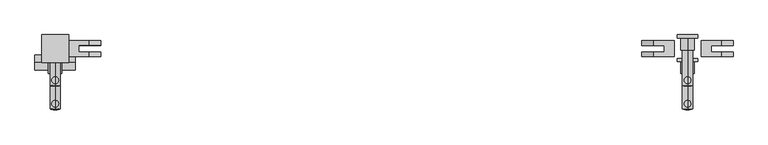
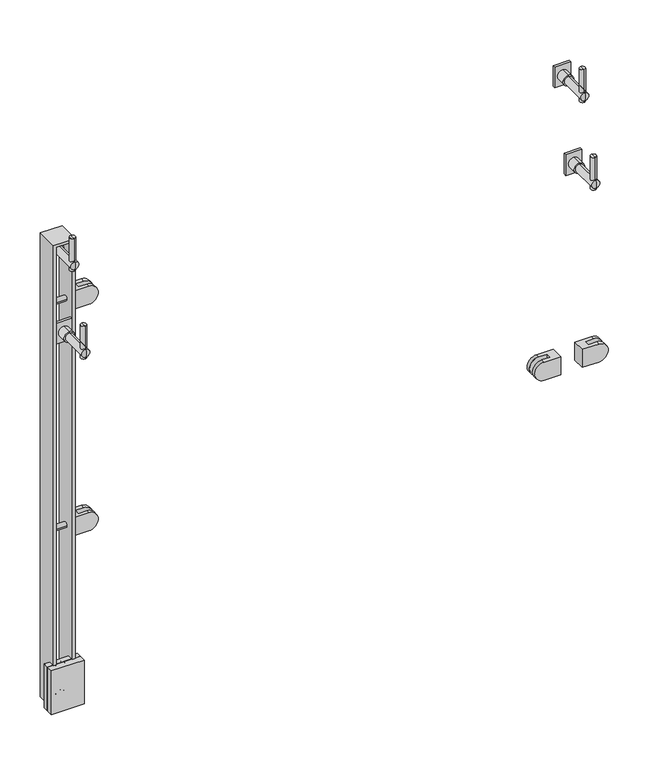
"""IFC4 building model written with IfcOpenShell, lengths in millimetres: proxy geometry, LIVERS_ICN - Glass Panel : LIVERS_ICN - Glass Panel."""

from ifc_helpers import new_model, si_unit, point, frame, origin, place, context, project, spatial, polyline, circle_curve, ellipse_curve, trimmed, outline, extrude, faceted_brep, source, transform, mapped, element, save
from ifc_brep_helpers import plane_surface, cylinder_surface, revolved_surface, advanced_brep


def building_element_proxy_994b1a2f(model_context):
    return source(origin(), model_context, "Body", "SolidModel", [
        advanced_brep(
        [(0.0, 60.3249609, 991.2180522), (0.0, 60.3249609, 978.5180522), (0.0, 60.3249609, 965.8180522), (0.0, 38.0999609, 991.2180522), (0.0, 38.0999609, 965.8180522), (0.0, 38.0999609, 978.5180522)],
        [
            (0, 1),
            (1, 2),
            (2, 0, circle_curve(frame((0.0, 60.3249609, 978.5180522), z_axis=(0.0, 1.0, 0.0), x_axis=(0.0, 0.0, -1.0)), 12.7)),
            (0, 2, circle_curve(frame((0.0, 60.3249609, 978.5180522), z_axis=(0.0, 1.0, 0.0), x_axis=(0.0, 0.0, -1.0)), 12.7)),
            (3, 0),
            (2, 4),
            (4, 3, circle_curve(frame((0.0, 38.0999609, 978.5180522), z_axis=(0.0, 1.0, 0.0), x_axis=(0.0, 0.0, -1.0)), 12.7)),
            (3, 4, circle_curve(frame((0.0, 38.0999609, 978.5180522), z_axis=(0.0, 1.0, 0.0), x_axis=(0.0, 0.0, -1.0)), 12.7)),
            (5, 3),
            (4, 5),
        ],
        [
            plane_surface(frame((0.0, 60.3249609, 978.5180522), z_axis=(0.0, 1.0, 0.0), x_axis=(0.0, 0.0, -1.0))),
            cylinder_surface(frame((0.0, 69.3828283, 978.5180522), z_axis=(0.0, -1.0, 0.0), x_axis=(0.0, 0.0, -1.0)), 12.7),
            plane_surface(frame((0.0, 38.0999609, 978.5180522), z_axis=(0.0, -1.0, 0.0), x_axis=(0.0, 0.0, -1.0))),
        ],
        [
            (0, [[1, 2, 3]]),
            (0, [[-2, -1, 4]]),
            (1, [[5, -3, 6, 7]]),
            (1, [[-6, -4, -5, 8]]),
            (2, [[9, -7, 10]]),
            (2, [[-10, -8, -9]]),
        ],
    ),
        advanced_brep(
        [(0.0, -25.4004131, 1043.1838845), (0.0, -19.0504161, 1043.1838845), (0.0, -12.7004191, 1043.1838845), (0.0, -25.4004131, 962.7878163), (0.0, -12.7004191, 962.7878163), (0.0, -19.0504161, 962.7878163)],
        [
            (0, 1),
            (1, 2),
            (2, 0, circle_curve(frame((0.0, -19.0504161, 1043.1838845), z_axis=(0.0, 0.0, 1.0), x_axis=(0.0, 1.0, 0.0)), 6.349997)),
            (0, 2, circle_curve(frame((0.0, -19.0504161, 1043.1838845), z_axis=(0.0, 0.0, 1.0), x_axis=(0.0, 1.0, 0.0)), 6.349997)),
            (3, 0),
            (2, 4),
            (4, 3, circle_curve(frame((0.0, -19.0504161, 962.7878163), z_axis=(0.0, 0.0, 1.0), x_axis=(0.0, 1.0, 0.0)), 6.349997)),
            (3, 4, circle_curve(frame((0.0, -19.0504161, 962.7878163), z_axis=(0.0, 0.0, 1.0), x_axis=(0.0, 1.0, 0.0)), 6.349997)),
            (5, 3),
            (4, 5),
        ],
        [
            plane_surface(frame((0.0, -19.0504161, 1043.1838845), z_axis=(0.0, 0.0, 1.0), x_axis=(0.0, 1.0, 0.0))),
            cylinder_surface(frame((0.0, -19.0504161, 1057.0348914), z_axis=(0.0, 0.0, -1.0), x_axis=(0.0, 1.0, 0.0)), 6.349997),
            plane_surface(frame((0.0, -19.0504161, 962.7878163), z_axis=(0.0, 0.0, -1.0), x_axis=(0.0, 1.0, 0.0))),
        ],
        [
            (0, [[1, 2, 3]]),
            (0, [[-2, -1, 4]]),
            (1, [[5, -3, 6, 7]]),
            (1, [[-6, -4, -5, 8]]),
            (2, [[9, -7, 10]]),
            (2, [[-10, -8, -9]]),
        ],
    ),
        advanced_brep(
        [(0.0, -30.1375464, 978.5180522), (0.0, -28.5500464, 988.0430522), (0.0, -28.5500464, 968.9930522), (0.0, 38.0999609, 988.0430522), (0.0, 38.0999609, 978.5180522), (0.0, 38.0999609, 968.9930522)],
        [
            (0, 1, circle_curve(frame((0.0, -0.7687964, 978.5180522), z_axis=(-1.0, 0.0, 0.0), x_axis=(0.0, 1.0, 0.0)), 29.36875)),
            (1, 2, circle_curve(frame((0.0, -28.5500464, 978.5180522), z_axis=(0.0, -1.0, 0.0), x_axis=(0.0, 0.0, -1.0)), 9.525)),
            (2, 0, circle_curve(frame((0.0, -0.7687964, 978.5180522), z_axis=(-1.0, 0.0, 0.0), x_axis=(0.0, 1.0, 0.0)), 29.36875)),
            (2, 1, circle_curve(frame((0.0, -28.5500464, 978.5180522), z_axis=(0.0, -1.0, 0.0), x_axis=(0.0, 0.0, -1.0)), 9.525)),
            (3, 4),
            (4, 5),
            (5, 3, circle_curve(frame((0.0, 38.0999609, 978.5180522), z_axis=(0.0, 1.0, 0.0), x_axis=(0.0, 0.0, -1.0)), 9.525)),
            (3, 5, circle_curve(frame((0.0, 38.0999609, 978.5180522), z_axis=(0.0, 1.0, 0.0), x_axis=(0.0, 0.0, -1.0)), 9.525)),
            (1, 3),
            (5, 2),
        ],
        [
            revolved_surface(trimmed(ellipse_curve(frame((0.0, -0.7687964, 978.5180522), z_axis=(-1.0, 0.0, 0.0), x_axis=(0.0, 1.0, 0.0)), 29.36875, 29.36875), [point((0.0, -28.5500464, 968.9930522))], [point((0.0, -30.1375464, 978.5180522))], True, "CARTESIAN"), (0.0, 30.3031204, 978.5180522), (0.0, -1.0, 0.0)),
            plane_surface(frame((0.0, 38.0999609, 978.5180522), z_axis=(0.0, 1.0, 0.0), x_axis=(0.0, 0.0, -1.0))),
            cylinder_surface(frame((0.0, 30.3031204, 978.5180522), z_axis=(0.0, -1.0, 0.0), x_axis=(0.0, 0.0, -1.0)), 9.525),
        ],
        [
            (0, [[1, 2, 3]]),
            (0, [[-3, 4, -1]]),
            (1, [[5, 6, 7]]),
            (1, [[-6, -5, 8]]),
            (2, [[9, -7, 10, -2]]),
            (2, [[-10, -8, -9, -4]]),
        ],
    ),
        extrude(outline(polyline([(19.05, 66.6749609), (19.05, 60.3249609), (-19.05, 60.3249609), (-19.05, 66.6749609), (19.05, 66.6749609)])), frame((0.0, 0.0, 953.1180522), z_axis=(0.0, 0.0, 1.0), x_axis=(1.0, 0.0, 0.0)), (0.0, 0.0, 1.0), 50.8),
        advanced_brep(
        [(1189.6787319, 60.3249609, 991.2180522), (1189.6787319, 60.3249609, 978.5180522), (1189.6787319, 60.3249609, 965.8180522), (1189.6787319, 38.0999609, 991.2180522), (1189.6787319, 38.0999609, 965.8180522), (1189.6787319, 38.0999609, 978.5180522)],
        [
            (0, 1),
            (1, 2),
            (2, 0, circle_curve(frame((1189.6787319, 60.3249609, 978.5180522), z_axis=(0.0, 1.0, 0.0), x_axis=(0.0, 0.0, -1.0)), 12.7)),
            (0, 2, circle_curve(frame((1189.6787319, 60.3249609, 978.5180522), z_axis=(0.0, 1.0, 0.0), x_axis=(0.0, 0.0, -1.0)), 12.7)),
            (3, 0),
            (2, 4),
            (4, 3, circle_curve(frame((1189.6787319, 38.0999609, 978.5180522), z_axis=(0.0, 1.0, 0.0), x_axis=(0.0, 0.0, -1.0)), 12.7)),
            (3, 4, circle_curve(frame((1189.6787319, 38.0999609, 978.5180522), z_axis=(0.0, 1.0, 0.0), x_axis=(0.0, 0.0, -1.0)), 12.7)),
            (5, 3),
            (4, 5),
        ],
        [
            plane_surface(frame((1189.6787319, 60.3249609, 978.5180522), z_axis=(0.0, 1.0, 0.0), x_axis=(0.0, 0.0, -1.0))),
            cylinder_surface(frame((1189.6787319, 69.3828283, 978.5180522), z_axis=(0.0, -1.0, 0.0), x_axis=(0.0, 0.0, -1.0)), 12.7),
            plane_surface(frame((1189.6787319, 38.0999609, 978.5180522), z_axis=(0.0, -1.0, 0.0), x_axis=(0.0, 0.0, -1.0))),
        ],
        [
            (0, [[1, 2, 3]]),
            (0, [[-2, -1, 4]]),
            (1, [[5, -3, 6, 7]]),
            (1, [[-6, -4, -5, 8]]),
            (2, [[9, -7, 10]]),
            (2, [[-10, -8, -9]]),
        ],
    ),
        advanced_brep(
        [(1189.6787319, -25.4004131, 1043.1838845), (1189.6787319, -19.0504161, 1043.1838845), (1189.6787319, -12.7004191, 1043.1838845), (1189.6787319, -25.4004131, 962.7878163), (1189.6787319, -12.7004191, 962.7878163), (1189.6787319, -19.0504161, 962.7878163)],
        [
            (0, 1),
            (1, 2),
            (2, 0, circle_curve(frame((1189.6787319, -19.0504161, 1043.1838845), z_axis=(0.0, 0.0, 1.0), x_axis=(0.0, 1.0, 0.0)), 6.349997)),
            (0, 2, circle_curve(frame((1189.6787319, -19.0504161, 1043.1838845), z_axis=(0.0, 0.0, 1.0), x_axis=(0.0, 1.0, 0.0)), 6.349997)),
            (3, 0),
            (2, 4),
            (4, 3, circle_curve(frame((1189.6787319, -19.0504161, 962.7878163), z_axis=(0.0, 0.0, 1.0), x_axis=(0.0, 1.0, 0.0)), 6.349997)),
            (3, 4, circle_curve(frame((1189.6787319, -19.0504161, 962.7878163), z_axis=(0.0, 0.0, 1.0), x_axis=(0.0, 1.0, 0.0)), 6.349997)),
            (5, 3),
            (4, 5),
        ],
        [
            plane_surface(frame((1189.6787319, -19.0504161, 1043.1838845), z_axis=(0.0, 0.0, 1.0), x_axis=(0.0, 1.0, 0.0))),
            cylinder_surface(frame((1189.6787319, -19.0504161, 1057.0348914), z_axis=(0.0, 0.0, -1.0), x_axis=(0.0, 1.0, 0.0)), 6.349997),
            plane_surface(frame((1189.6787319, -19.0504161, 962.7878163), z_axis=(0.0, 0.0, -1.0), x_axis=(0.0, 1.0, 0.0))),
        ],
        [
            (0, [[1, 2, 3]]),
            (0, [[-2, -1, 4]]),
            (1, [[5, -3, 6, 7]]),
            (1, [[-6, -4, -5, 8]]),
            (2, [[9, -7, 10]]),
            (2, [[-10, -8, -9]]),
        ],
    ),
        advanced_brep(
        [(1189.6787319, -30.1375464, 978.5180522), (1189.6787319, -28.5500464, 988.0430522), (1189.6787319, -28.5500464, 968.9930522), (1189.6787319, 38.0999609, 988.0430522), (1189.6787319, 38.0999609, 978.5180522), (1189.6787319, 38.0999609, 968.9930522)],
        [
            (0, 1, circle_curve(frame((1189.6787319, -0.7687964, 978.5180522), z_axis=(-1.0, 0.0, 0.0), x_axis=(0.0, 1.0, 0.0)), 29.36875)),
            (1, 2, circle_curve(frame((1189.6787319, -28.5500464, 978.5180522), z_axis=(0.0, -1.0, 0.0), x_axis=(0.0, 0.0, -1.0)), 9.525)),
            (2, 0, circle_curve(frame((1189.6787319, -0.7687964, 978.5180522), z_axis=(-1.0, 0.0, 0.0), x_axis=(0.0, 1.0, 0.0)), 29.36875)),
            (2, 1, circle_curve(frame((1189.6787319, -28.5500464, 978.5180522), z_axis=(0.0, -1.0, 0.0), x_axis=(0.0, 0.0, -1.0)), 9.525)),
            (3, 4),
            (4, 5),
            (5, 3, circle_curve(frame((1189.6787319, 38.0999609, 978.5180522), z_axis=(0.0, 1.0, 0.0), x_axis=(0.0, 0.0, -1.0)), 9.525)),
            (3, 5, circle_curve(frame((1189.6787319, 38.0999609, 978.5180522), z_axis=(0.0, 1.0, 0.0), x_axis=(0.0, 0.0, -1.0)), 9.525)),
            (1, 3),
            (5, 2),
        ],
        [
            revolved_surface(trimmed(ellipse_curve(frame((1189.6787319, -0.7687964, 978.5180522), z_axis=(-1.0, 0.0, 0.0), x_axis=(0.0, 1.0, 0.0)), 29.36875, 29.36875), [point((1189.6787319, -28.5500464, 968.9930522))], [point((1189.6787319, -30.1375464, 978.5180522))], True, "CARTESIAN"), (1189.6787319, 30.3031204, 978.5180522), (0.0, -1.0, 0.0)),
            plane_surface(frame((1189.6787319, 38.0999609, 978.5180522), z_axis=(0.0, 1.0, 0.0), x_axis=(0.0, 0.0, -1.0))),
            cylinder_surface(frame((1189.6787319, 30.3031204, 978.5180522), z_axis=(0.0, -1.0, 0.0), x_axis=(0.0, 0.0, -1.0)), 9.525),
        ],
        [
            (0, [[1, 2, 3]]),
            (0, [[-3, 4, -1]]),
            (1, [[5, 6, 7]]),
            (1, [[-6, -5, 8]]),
            (2, [[9, -7, 10, -2]]),
            (2, [[-10, -8, -9, -4]]),
        ],
    ),
        extrude(outline(polyline([(1208.7287319, 66.6749609), (1208.7287319, 60.3249609), (1170.6287319, 60.3249609), (1170.6287319, 66.6749609), (1208.7287319, 66.6749609)])), frame((0.0, 0.0, 953.1180522), z_axis=(0.0, 0.0, 1.0), x_axis=(1.0, 0.0, 0.0)), (0.0, 0.0, 1.0), 50.8),
        advanced_brep(
        [(0.0, 15.875, 802.0090959), (0.0, 15.875, 789.3090959), (0.0, 15.875, 776.6090959), (0.0, -6.35, 802.0090959), (0.0, -6.35, 776.6090959), (0.0, -6.35, 789.3090959)],
        [
            (0, 1),
            (1, 2),
            (2, 0, circle_curve(frame((0.0, 15.875, 789.3090959), z_axis=(0.0, 1.0, 0.0), x_axis=(0.0, 0.0, -1.0)), 12.7)),
            (0, 2, circle_curve(frame((0.0, 15.875, 789.3090959), z_axis=(0.0, 1.0, 0.0), x_axis=(0.0, 0.0, -1.0)), 12.7)),
            (3, 0),
            (2, 4),
            (4, 3, circle_curve(frame((0.0, -6.35, 789.3090959), z_axis=(0.0, 1.0, 0.0), x_axis=(0.0, 0.0, -1.0)), 12.7)),
            (3, 4, circle_curve(frame((0.0, -6.35, 789.3090959), z_axis=(0.0, 1.0, 0.0), x_axis=(0.0, 0.0, -1.0)), 12.7)),
            (5, 3),
            (4, 5),
        ],
        [
            plane_surface(frame((0.0, 15.875, 789.3090959), z_axis=(0.0, 1.0, 0.0), x_axis=(0.0, 0.0, -1.0))),
            cylinder_surface(frame((0.0, 24.9328674, 789.3090959), z_axis=(0.0, -1.0, 0.0), x_axis=(0.0, 0.0, -1.0)), 12.7),
            plane_surface(frame((0.0, -6.35, 789.3090959), z_axis=(0.0, -1.0, 0.0), x_axis=(0.0, 0.0, -1.0))),
        ],
        [
            (0, [[1, 2, 3]]),
            (0, [[-2, -1, 4]]),
            (1, [[5, -3, 6, 7]]),
            (1, [[-6, -4, -5, 8]]),
            (2, [[9, -7, 10]]),
            (2, [[-10, -8, -9]]),
        ],
    ),
        advanced_brep(
        [(0.0, -69.850374, 853.9749282), (0.0, -63.500377, 853.9749282), (0.0, -57.15038, 853.9749282), (0.0, -69.850374, 773.57886), (0.0, -57.15038, 773.57886), (0.0, -63.500377, 773.57886)],
        [
            (0, 1),
            (1, 2),
            (2, 0, circle_curve(frame((0.0, -63.500377, 853.9749282), z_axis=(0.0, 0.0, 1.0), x_axis=(0.0, 1.0, 0.0)), 6.349997)),
            (0, 2, circle_curve(frame((0.0, -63.500377, 853.9749282), z_axis=(0.0, 0.0, 1.0), x_axis=(0.0, 1.0, 0.0)), 6.349997)),
            (3, 0),
            (2, 4),
            (4, 3, circle_curve(frame((0.0, -63.500377, 773.57886), z_axis=(0.0, 0.0, 1.0), x_axis=(0.0, 1.0, 0.0)), 6.349997)),
            (3, 4, circle_curve(frame((0.0, -63.500377, 773.57886), z_axis=(0.0, 0.0, 1.0), x_axis=(0.0, 1.0, 0.0)), 6.349997)),
            (5, 3),
            (4, 5),
        ],
        [
            plane_surface(frame((0.0, -63.500377, 853.9749282), z_axis=(0.0, 0.0, 1.0), x_axis=(0.0, 1.0, 0.0))),
            cylinder_surface(frame((0.0, -63.500377, 867.8259351), z_axis=(0.0, 0.0, -1.0), x_axis=(0.0, 1.0, 0.0)), 6.349997),
            plane_surface(frame((0.0, -63.500377, 773.57886), z_axis=(0.0, 0.0, -1.0), x_axis=(0.0, 1.0, 0.0))),
        ],
        [
            (0, [[1, 2, 3]]),
            (0, [[-2, -1, 4]]),
            (1, [[5, -3, 6, 7]]),
            (1, [[-6, -4, -5, 8]]),
            (2, [[9, -7, 10]]),
            (2, [[-10, -8, -9]]),
        ],
    ),
        advanced_brep(
        [(0.0, -74.5875073, 789.3090959), (0.0, -73.0000073, 798.8340959), (0.0, -73.0000073, 779.7840959), (0.0, -6.35, 798.8340959), (0.0, -6.35, 789.3090959), (0.0, -6.35, 779.7840959)],
        [
            (0, 1, circle_curve(frame((0.0, -45.2187573, 789.3090959), z_axis=(-1.0, 0.0, 0.0), x_axis=(0.0, 1.0, 0.0)), 29.36875)),
            (1, 2, circle_curve(frame((0.0, -73.0000073, 789.3090959), z_axis=(0.0, -1.0, 0.0), x_axis=(0.0, 0.0, -1.0)), 9.525)),
            (2, 0, circle_curve(frame((0.0, -45.2187573, 789.3090959), z_axis=(-1.0, 0.0, 0.0), x_axis=(0.0, 1.0, 0.0)), 29.36875)),
            (2, 1, circle_curve(frame((0.0, -73.0000073, 789.3090959), z_axis=(0.0, -1.0, 0.0), x_axis=(0.0, 0.0, -1.0)), 9.525)),
            (3, 4),
            (4, 5),
            (5, 3, circle_curve(frame((0.0, -6.35, 789.3090959), z_axis=(0.0, 1.0, 0.0), x_axis=(0.0, 0.0, -1.0)), 9.525)),
            (3, 5, circle_curve(frame((0.0, -6.35, 789.3090959), z_axis=(0.0, 1.0, 0.0), x_axis=(0.0, 0.0, -1.0)), 9.525)),
            (1, 3),
            (5, 2),
        ],
        [
            revolved_surface(trimmed(ellipse_curve(frame((0.0, -45.2187573, 789.3090959), z_axis=(-1.0, 0.0, 0.0), x_axis=(0.0, 1.0, 0.0)), 29.36875, 29.36875), [point((0.0, -73.0000073, 779.7840959))], [point((0.0, -74.5875073, 789.3090959))], True, "CARTESIAN"), (0.0, -14.1468405, 789.3090959), (0.0, -1.0, 0.0)),
            plane_surface(frame((0.0, -6.35, 789.3090959), z_axis=(0.0, 1.0, 0.0), x_axis=(0.0, 0.0, -1.0))),
            cylinder_surface(frame((0.0, -14.1468405, 789.3090959), z_axis=(0.0, -1.0, 0.0), x_axis=(0.0, 0.0, -1.0)), 9.525),
        ],
        [
            (0, [[1, 2, 3]]),
            (0, [[-3, 4, -1]]),
            (1, [[5, 6, 7]]),
            (1, [[-6, -5, 8]]),
            (2, [[9, -7, 10, -2]]),
            (2, [[-10, -8, -9, -4]]),
        ],
    ),
        extrude(outline(polyline([(19.05, 22.225), (19.05, 15.875), (-19.05, 15.875), (-19.05, 22.225), (19.05, 22.225)])), frame((0.0, 0.0, 763.9090959), z_axis=(0.0, 0.0, 1.0), x_axis=(1.0, 0.0, 0.0)), (0.0, 0.0, 1.0), 50.8),
        advanced_brep(
        [(1189.6787319, 15.875, 802.0090959), (1189.6787319, 15.875, 789.3090959), (1189.6787319, 15.875, 776.6090959), (1189.6787319, -6.35, 802.0090959), (1189.6787319, -6.35, 776.6090959), (1189.6787319, -6.35, 789.3090959)],
        [
            (0, 1),
            (1, 2),
            (2, 0, circle_curve(frame((1189.6787319, 15.875, 789.3090959), z_axis=(0.0, 1.0, 0.0), x_axis=(0.0, 0.0, -1.0)), 12.7)),
            (0, 2, circle_curve(frame((1189.6787319, 15.875, 789.3090959), z_axis=(0.0, 1.0, 0.0), x_axis=(0.0, 0.0, -1.0)), 12.7)),
            (3, 0),
            (2, 4),
            (4, 3, circle_curve(frame((1189.6787319, -6.35, 789.3090959), z_axis=(0.0, 1.0, 0.0), x_axis=(0.0, 0.0, -1.0)), 12.7)),
            (3, 4, circle_curve(frame((1189.6787319, -6.35, 789.3090959), z_axis=(0.0, 1.0, 0.0), x_axis=(0.0, 0.0, -1.0)), 12.7)),
            (5, 3),
            (4, 5),
        ],
        [
            plane_surface(frame((1189.6787319, 15.875, 789.3090959), z_axis=(0.0, 1.0, 0.0), x_axis=(0.0, 0.0, -1.0))),
            cylinder_surface(frame((1189.6787319, 24.9328674, 789.3090959), z_axis=(0.0, -1.0, 0.0), x_axis=(0.0, 0.0, -1.0)), 12.7),
            plane_surface(frame((1189.6787319, -6.35, 789.3090959), z_axis=(0.0, -1.0, 0.0), x_axis=(0.0, 0.0, -1.0))),
        ],
        [
            (0, [[1, 2, 3]]),
            (0, [[-2, -1, 4]]),
            (1, [[5, -3, 6, 7]]),
            (1, [[-6, -4, -5, 8]]),
            (2, [[9, -7, 10]]),
            (2, [[-10, -8, -9]]),
        ],
    ),
        advanced_brep(
        [(1189.6787319, -69.850374, 853.9749282), (1189.6787319, -63.500377, 853.9749282), (1189.6787319, -57.15038, 853.9749282), (1189.6787319, -69.850374, 773.57886), (1189.6787319, -57.15038, 773.57886), (1189.6787319, -63.500377, 773.57886)],
        [
            (0, 1),
            (1, 2),
            (2, 0, circle_curve(frame((1189.6787319, -63.500377, 853.9749282), z_axis=(0.0, 0.0, 1.0), x_axis=(0.0, 1.0, 0.0)), 6.349997)),
            (0, 2, circle_curve(frame((1189.6787319, -63.500377, 853.9749282), z_axis=(0.0, 0.0, 1.0), x_axis=(0.0, 1.0, 0.0)), 6.349997)),
            (3, 0),
            (2, 4),
            (4, 3, circle_curve(frame((1189.6787319, -63.500377, 773.57886), z_axis=(0.0, 0.0, 1.0), x_axis=(0.0, 1.0, 0.0)), 6.349997)),
            (3, 4, circle_curve(frame((1189.6787319, -63.500377, 773.57886), z_axis=(0.0, 0.0, 1.0), x_axis=(0.0, 1.0, 0.0)), 6.349997)),
            (5, 3),
            (4, 5),
        ],
        [
            plane_surface(frame((1189.6787319, -63.500377, 853.9749282), z_axis=(0.0, 0.0, 1.0), x_axis=(0.0, 1.0, 0.0))),
            cylinder_surface(frame((1189.6787319, -63.500377, 867.8259351), z_axis=(0.0, 0.0, -1.0), x_axis=(0.0, 1.0, 0.0)), 6.349997),
            plane_surface(frame((1189.6787319, -63.500377, 773.57886), z_axis=(0.0, 0.0, -1.0), x_axis=(0.0, 1.0, 0.0))),
        ],
        [
            (0, [[1, 2, 3]]),
            (0, [[-2, -1, 4]]),
            (1, [[5, -3, 6, 7]]),
            (1, [[-6, -4, -5, 8]]),
            (2, [[9, -7, 10]]),
            (2, [[-10, -8, -9]]),
        ],
    ),
        advanced_brep(
        [(1189.6787319, -74.5875073, 789.3090959), (1189.6787319, -73.0000073, 798.8340959), (1189.6787319, -73.0000073, 779.7840959), (1189.6787319, -6.35, 798.8340959), (1189.6787319, -6.35, 789.3090959), (1189.6787319, -6.35, 779.7840959)],
        [
            (0, 1, circle_curve(frame((1189.6787319, -45.2187573, 789.3090959), z_axis=(-1.0, 0.0, 0.0), x_axis=(0.0, 1.0, 0.0)), 29.36875)),
            (1, 2, circle_curve(frame((1189.6787319, -73.0000073, 789.3090959), z_axis=(0.0, -1.0, 0.0), x_axis=(0.0, 0.0, -1.0)), 9.525)),
            (2, 0, circle_curve(frame((1189.6787319, -45.2187573, 789.3090959), z_axis=(-1.0, 0.0, 0.0), x_axis=(0.0, 1.0, 0.0)), 29.36875)),
            (2, 1, circle_curve(frame((1189.6787319, -73.0000073, 789.3090959), z_axis=(0.0, -1.0, 0.0), x_axis=(0.0, 0.0, -1.0)), 9.525)),
            (3, 4),
            (4, 5),
            (5, 3, circle_curve(frame((1189.6787319, -6.35, 789.3090959), z_axis=(0.0, 1.0, 0.0), x_axis=(0.0, 0.0, -1.0)), 9.525)),
            (3, 5, circle_curve(frame((1189.6787319, -6.35, 789.3090959), z_axis=(0.0, 1.0, 0.0), x_axis=(0.0, 0.0, -1.0)), 9.525)),
            (1, 3),
            (5, 2),
        ],
        [
            revolved_surface(trimmed(ellipse_curve(frame((1189.6787319, -45.2187573, 789.3090959), z_axis=(-1.0, 0.0, 0.0), x_axis=(0.0, 1.0, 0.0)), 29.36875, 29.36875), [point((1189.6787319, -73.0000073, 779.7840959))], [point((1189.6787319, -74.5875073, 789.3090959))], True, "CARTESIAN"), (1189.6787319, -14.1468405, 789.3090959), (0.0, -1.0, 0.0)),
            plane_surface(frame((1189.6787319, -6.35, 789.3090959), z_axis=(0.0, 1.0, 0.0), x_axis=(0.0, 0.0, -1.0))),
            cylinder_surface(frame((1189.6787319, -14.1468405, 789.3090959), z_axis=(0.0, -1.0, 0.0), x_axis=(0.0, 0.0, -1.0)), 9.525),
        ],
        [
            (0, [[1, 2, 3]]),
            (0, [[-3, 4, -1]]),
            (1, [[5, 6, 7]]),
            (1, [[-6, -5, 8]]),
            (2, [[9, -7, 10, -2]]),
            (2, [[-10, -8, -9, -4]]),
        ],
    ),
        extrude(outline(polyline([(1208.7287319, 22.225), (1208.7287319, 15.875), (1170.6287319, 15.875), (1170.6287319, 22.225), (1208.7287319, 22.225)])), frame((0.0, 0.0, 763.9090959), z_axis=(0.0, 0.0, 1.0), x_axis=(1.0, 0.0, 0.0)), (0.0, 0.0, 1.0), 50.8),
        advanced_brep(
        [(25.4, 55.5624457, 313.5369168), (25.4, 55.5624457, 269.0869168), (25.4, 25.3999457, 269.0869168), (25.4, 25.3999457, 313.5369168), (63.601094, 55.5624457, 313.5369168), (63.601094, 55.5624457, 269.0869168), (63.601094, 46.8311957, 269.0869168), (44.2719192, 46.8311957, 269.0869168), (44.2719192, 34.1311957, 269.0869168), (63.601094, 34.1311957, 269.0869168), (63.601094, 25.3999457, 269.0869168), (63.601094, 25.3999457, 313.5369168), (63.601094, 34.1311957, 313.5369168), (44.2719192, 34.1311957, 313.5369168), (44.2719192, 46.8311957, 313.5369168), (63.601094, 46.8311957, 313.5369168)],
        [
            (0, 1),
            (1, 2),
            (2, 3),
            (3, 0),
            (0, 4),
            (4, 5, circle_curve(frame((63.601094, 55.5624457, 291.3119168), z_axis=(0.0, 1.0, 0.0), x_axis=(0.0, 0.0, -1.0)), 22.225)),
            (5, 1),
            (5, 6),
            (6, 7),
            (7, 8),
            (8, 9),
            (9, 10),
            (10, 2),
            (10, 11, circle_curve(frame((63.601094, 25.3999457, 291.3119168), z_axis=(0.0, -1.0, 0.0), x_axis=(0.0, 0.0, -1.0)), 22.225)),
            (11, 3),
            (11, 12),
            (12, 13),
            (13, 14),
            (14, 15),
            (15, 4),
            (13, 8),
            (7, 14),
            (6, 15, circle_curve(frame((63.601094, 46.8311957, 291.3119168), z_axis=(0.0, -1.0, 0.0), x_axis=(0.0, 0.0, -1.0)), 22.225)),
            (12, 9, circle_curve(frame((63.601094, 34.1311957, 291.3119168), z_axis=(0.0, 1.0, 0.0), x_axis=(0.0, 0.0, -1.0)), 22.225)),
        ],
        [
            plane_surface(frame((25.4, 55.5624457, 269.0869168), z_axis=(-1.0, 0.0, 0.0), x_axis=(0.0, 0.0, 1.0))),
            plane_surface(frame((85.9030808, 55.5624457, 313.5369168), z_axis=(0.0, 1.0, 0.0), x_axis=(-1.0, 0.0, 0.0))),
            plane_surface(frame((85.9030808, 55.5624457, 269.0869168), z_axis=(0.0, 0.0, -1.0), x_axis=(-1.0, 0.0, 0.0))),
            plane_surface(frame((85.9030808, 25.3999457, 269.0869168), z_axis=(0.0, -1.0, 0.0), x_axis=(-1.0, 0.0, 0.0))),
            plane_surface(frame((85.9030808, 25.3999457, 313.5369168), z_axis=(0.0, 0.0, 1.0), x_axis=(-1.0, 0.0, 0.0))),
            plane_surface(frame((44.2719192, 46.8311957, 269.0869168), z_axis=(1.0, 0.0, 0.0), x_axis=(0.0, 0.0, 1.0))),
            plane_surface(frame((85.9030808, 46.8311957, 313.5369168), z_axis=(0.0, -1.0, 0.0), x_axis=(-1.0, 0.0, 0.0))),
            plane_surface(frame((85.9030808, 34.1311957, 269.0869168), z_axis=(0.0, 1.0, 0.0), x_axis=(-1.0, 0.0, 0.0))),
            cylinder_surface(frame((63.601094, 55.5624457, 291.3119168), z_axis=(0.0, 1.0, 0.0), x_axis=(0.0, 0.0, -1.0)), 22.225),
        ],
        [
            (0, [[1, 2, 3, 4]]),
            (1, [[5, 6, 7, -1]]),
            (2, [[-7, 8, 9, 10, 11, 12, 13, -2]]),
            (3, [[-13, 14, 15, -3]]),
            (4, [[-15, 16, 17, 18, 19, 20, -5, -4]]),
            (5, [[-18, 21, -10, 22]]),
            (6, [[-9, 23, -19, -22]]),
            (7, [[-17, 24, -11, -21]]),
            (8, [[-20, -23, -8, -6]]),
            (8, [[-24, -16, -14, -12]]),
        ],
    ),
        advanced_brep(
        [(25.4, 55.5624457, 872.3369168), (25.4, 55.5624457, 827.8869168), (25.4, 25.3999457, 827.8869168), (25.4, 25.3999457, 872.3369168), (63.601094, 55.5624457, 872.3369168), (63.601094, 55.5624457, 827.8869168), (63.601094, 46.8311957, 827.8869168), (44.2719192, 46.8311957, 827.8869168), (44.2719192, 34.1311957, 827.8869168), (63.601094, 34.1311957, 827.8869168), (63.601094, 25.3999457, 827.8869168), (63.601094, 25.3999457, 872.3369168), (63.601094, 34.1311957, 872.3369168), (44.2719192, 34.1311957, 872.3369168), (44.2719192, 46.8311957, 872.3369168), (63.601094, 46.8311957, 872.3369168)],
        [
            (0, 1),
            (1, 2),
            (2, 3),
            (3, 0),
            (0, 4),
            (4, 5, circle_curve(frame((63.601094, 55.5624457, 850.1119168), z_axis=(0.0, 1.0, 0.0), x_axis=(0.0, 0.0, -1.0)), 22.225)),
            (5, 1),
            (5, 6),
            (6, 7),
            (7, 8),
            (8, 9),
            (9, 10),
            (10, 2),
            (10, 11, circle_curve(frame((63.601094, 25.3999457, 850.1119168), z_axis=(0.0, -1.0, 0.0), x_axis=(0.0, 0.0, -1.0)), 22.225)),
            (11, 3),
            (11, 12),
            (12, 13),
            (13, 14),
            (14, 15),
            (15, 4),
            (13, 8),
            (7, 14),
            (6, 15, circle_curve(frame((63.601094, 46.8311957, 850.1119168), z_axis=(0.0, -1.0, 0.0), x_axis=(0.0, 0.0, -1.0)), 22.225)),
            (12, 9, circle_curve(frame((63.601094, 34.1311957, 850.1119168), z_axis=(0.0, 1.0, 0.0), x_axis=(0.0, 0.0, -1.0)), 22.225)),
        ],
        [
            plane_surface(frame((25.4, 55.5624457, 827.8869168), z_axis=(-1.0, 0.0, 0.0), x_axis=(0.0, 0.0, 1.0))),
            plane_surface(frame((85.9030808, 55.5624457, 872.3369168), z_axis=(0.0, 1.0, 0.0), x_axis=(-1.0, 0.0, 0.0))),
            plane_surface(frame((85.9030808, 55.5624457, 827.8869168), z_axis=(0.0, 0.0, -1.0), x_axis=(-1.0, 0.0, 0.0))),
            plane_surface(frame((85.9030808, 25.3999457, 827.8869168), z_axis=(0.0, -1.0, 0.0), x_axis=(-1.0, 0.0, 0.0))),
            plane_surface(frame((85.9030808, 25.3999457, 872.3369168), z_axis=(0.0, 0.0, 1.0), x_axis=(-1.0, 0.0, 0.0))),
            plane_surface(frame((44.2719192, 46.8311957, 827.8869168), z_axis=(1.0, 0.0, 0.0), x_axis=(0.0, 0.0, 1.0))),
            plane_surface(frame((85.9030808, 46.8311957, 872.3369168), z_axis=(0.0, -1.0, 0.0), x_axis=(-1.0, 0.0, 0.0))),
            plane_surface(frame((85.9030808, 34.1311957, 827.8869168), z_axis=(0.0, 1.0, 0.0), x_axis=(-1.0, 0.0, 0.0))),
            cylinder_surface(frame((63.601094, 55.5624457, 850.1119168), z_axis=(0.0, 1.0, 0.0), x_axis=(0.0, 0.0, -1.0)), 22.225),
        ],
        [
            (0, [[1, 2, 3, 4]]),
            (1, [[5, 6, 7, -1]]),
            (2, [[-7, 8, 9, 10, 11, 12, 13, -2]]),
            (3, [[-13, 14, 15, -3]]),
            (4, [[-15, 16, 17, 18, 19, 20, -5, -4]]),
            (5, [[-18, 21, -10, 22]]),
            (6, [[-9, 23, -19, -22]]),
            (7, [[-17, 24, -11, -21]]),
            (8, [[-20, -23, -8, -6]]),
            (8, [[-24, -16, -14, -12]]),
        ],
    ),
        advanced_brep(
        [(0.0, 28.575, -125.3541166), (0.0, 29.7562407, -125.3541166), (0.0, 29.7562407, -103.1291055), (0.0, 28.575, -103.1291055), (0.0, 28.575, -114.2416111), (0.0, 32.325, -119.8541166), (0.0, 30.8816229, -114.2416111), (0.0, 32.325, -108.6291055), (0.0, 34.8740117, -119.8541166), (0.0, 34.8740117, -108.6291055), (0.0, 33.8500285, -122.802123), (0.0, 33.8500285, -105.6810991), (0.0, 31.8562692, -124.5603989), (0.0, 31.8562692, -103.9228232)],
        [
            (0, 1),
            (1, 2, circle_curve(frame((0.0, 29.7562407, -114.2416111), z_axis=(0.0, -1.0, 0.0), x_axis=(0.0, 0.0, 1.0)), 11.1125056)),
            (2, 3),
            (3, 0, circle_curve(frame((0.0, 28.575, -114.2416111), z_axis=(0.0, 1.0, 0.0), x_axis=(0.0, 0.0, 1.0)), 11.1125056)),
            (2, 1, circle_curve(frame((0.0, 29.7562407, -114.2416111), z_axis=(0.0, -1.0, 0.0), x_axis=(0.0, 0.0, 1.0)), 11.1125056)),
            (0, 3, circle_curve(frame((0.0, 28.575, -114.2416111), z_axis=(0.0, 1.0, 0.0), x_axis=(0.0, 0.0, 1.0)), 11.1125056)),
            (4, 0),
            (3, 4),
            (5, 6),
            (6, 7),
            (7, 5, circle_curve(frame((0.0, 32.325, -114.2416111), z_axis=(0.0, 1.0, 0.0), x_axis=(0.0, 0.0, 1.0)), 5.6125056)),
            (5, 7, circle_curve(frame((0.0, 32.325, -114.2416111), z_axis=(0.0, 1.0, 0.0), x_axis=(0.0, 0.0, 1.0)), 5.6125056)),
            (8, 5),
            (7, 9),
            (9, 8, circle_curve(frame((0.0, 34.8740117, -114.2416111), z_axis=(0.0, 1.0, 0.0), x_axis=(0.0, 0.0, 1.0)), 5.6125056)),
            (8, 9, circle_curve(frame((0.0, 34.8740117, -114.2416111), z_axis=(0.0, 1.0, 0.0), x_axis=(0.0, 0.0, 1.0)), 5.6125056)),
            (10, 8, circle_curve(frame((0.0, 31.75, -120.4208407), z_axis=(1.0, 0.0, 0.0), x_axis=(0.0, -1.0, 0.0)), 3.175)),
            (9, 11, circle_curve(frame((0.0, 31.75, -108.0623814), z_axis=(1.0, 0.0, 0.0), x_axis=(0.0, -1.0, 0.0)), 3.175)),
            (11, 10, circle_curve(frame((0.0, 33.8500285, -114.2416111), z_axis=(0.0, 1.0, 0.0), x_axis=(0.0, 0.0, 1.0)), 8.560512)),
            (10, 11, circle_curve(frame((0.0, 33.8500285, -114.2416111), z_axis=(0.0, 1.0, 0.0), x_axis=(0.0, 0.0, 1.0)), 8.560512)),
            (12, 10),
            (11, 13),
            (13, 12, circle_curve(frame((0.0, 31.8562692, -114.2416111), z_axis=(0.0, 1.0, 0.0), x_axis=(0.0, 0.0, 1.0)), 10.3187879)),
            (12, 13, circle_curve(frame((0.0, 31.8562692, -114.2416111), z_axis=(0.0, 1.0, 0.0), x_axis=(0.0, 0.0, 1.0)), 10.3187879)),
            (1, 12, circle_curve(frame((0.0, 29.7562407, -122.1791166), z_axis=(1.0, 0.0, 0.0), x_axis=(0.0, -1.0, 0.0)), 3.175)),
            (13, 2, circle_curve(frame((0.0, 29.7562407, -106.3041055), z_axis=(1.0, 0.0, 0.0), x_axis=(0.0, -1.0, 0.0)), 3.175)),
        ],
        [
            cylinder_surface(frame((0.0, 28.575, -114.2416111), z_axis=(0.0, -1.0, 0.0), x_axis=(0.0, 0.0, 1.0)), 11.1125056),
            plane_surface(frame((0.0, 28.575, -114.2416111), z_axis=(0.0, -1.0, 0.0), x_axis=(0.0, 0.0, 1.0))),
            revolved_surface(polyline([(0.0, 30.8816229, -114.2416111), (0.0, 32.325, -108.6291055)]), (0.0, 28.575, -114.2416111), (0.0, -1.0, 0.0)),
            revolved_surface(polyline([(0.0, 32.325, -108.6291055), (0.0, 34.8740117, -108.6291055)]), (0.0, 28.575, -114.2416111), (0.0, -1.0, 0.0)),
            revolved_surface(trimmed(ellipse_curve(frame((0.0, 31.75, -108.0623814), z_axis=(1.0, 0.0, 0.0), x_axis=(0.0, -1.0, 0.0)), 3.175, 3.175), [point((0.0, 34.8740117, -108.6291055))], [point((0.0, 33.8500285, -105.6810991))], True, "CARTESIAN"), (0.0, 28.575, -114.2416111), (0.0, -1.0, 0.0)),
            revolved_surface(polyline([(0.0, 33.8500285, -105.6810991), (0.0, 31.8562692, -103.9228232)]), (0.0, 28.575, -114.2416111), (0.0, -1.0, 0.0)),
            revolved_surface(trimmed(ellipse_curve(frame((0.0, 29.7562407, -106.3041055), z_axis=(1.0, 0.0, 0.0), x_axis=(0.0, -1.0, 0.0)), 3.175, 3.175), [point((0.0, 31.8562692, -103.9228232))], [point((0.0, 29.7562407, -103.1291055))], True, "CARTESIAN"), (0.0, 28.575, -114.2416111), (0.0, -1.0, 0.0)),
        ],
        [
            (0, [[1, 2, 3, 4]]),
            (0, [[-3, 5, -1, 6]]),
            (1, [[7, -4, 8]]),
            (1, [[-8, -6, -7]]),
            (2, [[9, 10, 11]]),
            (2, [[-10, -9, 12]]),
            (3, [[13, -11, 14, 15]]),
            (3, [[-14, -12, -13, 16]]),
            (4, [[17, -15, 18, 19]]),
            (4, [[-18, -16, -17, 20]]),
            (5, [[21, -19, 22, 23]]),
            (5, [[-22, -20, -21, 24]]),
            (6, [[25, -23, 26, -2]]),
            (6, [[-26, -24, -25, -5]]),
        ],
    ),
        advanced_brep(
        [(0.0, 28.575, -55.5041166), (0.0, 29.7562407, -55.5041166), (0.0, 29.7562407, -33.2791055), (0.0, 28.575, -33.2791055), (0.0, 28.575, -44.3916111), (0.0, 33.8500285, -52.952123), (0.0, 34.8740117, -50.0041166), (0.0, 34.8740117, -38.7791055), (0.0, 33.8500285, -35.8310991), (0.0, 31.8562692, -54.7103989), (0.0, 31.8562692, -34.0728232), (0.0, 32.325, -50.0041166), (0.0, 30.8816229, -44.3916111), (0.0, 32.325, -38.7791055)],
        [
            (0, 1),
            (1, 2, circle_curve(frame((0.0, 29.7562407, -44.3916111), z_axis=(0.0, -1.0, 0.0), x_axis=(0.0, 0.0, 1.0)), 11.1125056)),
            (2, 3),
            (3, 0, circle_curve(frame((0.0, 28.575, -44.3916111), z_axis=(0.0, 1.0, 0.0), x_axis=(0.0, 0.0, 1.0)), 11.1125056)),
            (2, 1, circle_curve(frame((0.0, 29.7562407, -44.3916111), z_axis=(0.0, -1.0, 0.0), x_axis=(0.0, 0.0, 1.0)), 11.1125056)),
            (0, 3, circle_curve(frame((0.0, 28.575, -44.3916111), z_axis=(0.0, 1.0, 0.0), x_axis=(0.0, 0.0, 1.0)), 11.1125056)),
            (4, 0),
            (3, 4),
            (5, 6, circle_curve(frame((0.0, 31.75, -50.5708407), z_axis=(1.0, 0.0, 0.0), x_axis=(0.0, -1.0, 0.0)), 3.175)),
            (6, 7, circle_curve(frame((0.0, 34.8740117, -44.3916111), z_axis=(0.0, -1.0, 0.0), x_axis=(0.0, 0.0, 1.0)), 5.6125056)),
            (7, 8, circle_curve(frame((0.0, 31.75, -38.2123814), z_axis=(1.0, 0.0, 0.0), x_axis=(0.0, -1.0, 0.0)), 3.175)),
            (8, 5, circle_curve(frame((0.0, 33.8500285, -44.3916111), z_axis=(0.0, 1.0, 0.0), x_axis=(0.0, 0.0, 1.0)), 8.560512)),
            (7, 6, circle_curve(frame((0.0, 34.8740117, -44.3916111), z_axis=(0.0, -1.0, 0.0), x_axis=(0.0, 0.0, 1.0)), 5.6125056)),
            (5, 8, circle_curve(frame((0.0, 33.8500285, -44.3916111), z_axis=(0.0, 1.0, 0.0), x_axis=(0.0, 0.0, 1.0)), 8.560512)),
            (9, 5),
            (8, 10),
            (10, 9, circle_curve(frame((0.0, 31.8562692, -44.3916111), z_axis=(0.0, 1.0, 0.0), x_axis=(0.0, 0.0, 1.0)), 10.3187879)),
            (9, 10, circle_curve(frame((0.0, 31.8562692, -44.3916111), z_axis=(0.0, 1.0, 0.0), x_axis=(0.0, 0.0, 1.0)), 10.3187879)),
            (1, 9, circle_curve(frame((0.0, 29.7562407, -52.3291166), z_axis=(1.0, 0.0, 0.0), x_axis=(0.0, -1.0, 0.0)), 3.175)),
            (10, 2, circle_curve(frame((0.0, 29.7562407, -36.4541055), z_axis=(1.0, 0.0, 0.0), x_axis=(0.0, -1.0, 0.0)), 3.175)),
            (11, 12),
            (12, 13),
            (13, 11, circle_curve(frame((0.0, 32.325, -44.3916111), z_axis=(0.0, 1.0, 0.0), x_axis=(0.0, 0.0, 1.0)), 5.6125056)),
            (11, 13, circle_curve(frame((0.0, 32.325, -44.3916111), z_axis=(0.0, 1.0, 0.0), x_axis=(0.0, 0.0, 1.0)), 5.6125056)),
            (6, 11),
            (13, 7),
        ],
        [
            cylinder_surface(frame((0.0, 28.575, -44.3916111), z_axis=(0.0, -1.0, 0.0), x_axis=(0.0, 0.0, 1.0)), 11.1125056),
            plane_surface(frame((0.0, 28.575, -44.3916111), z_axis=(0.0, -1.0, 0.0), x_axis=(0.0, 0.0, 1.0))),
            revolved_surface(trimmed(ellipse_curve(frame((0.0, 31.75, -38.2123814), z_axis=(1.0, 0.0, 0.0), x_axis=(0.0, -1.0, 0.0)), 3.175, 3.175), [point((0.0, 34.8740117, -38.7791055))], [point((0.0, 33.8500285, -35.8310991))], True, "CARTESIAN"), (0.0, 28.575, -44.3916111), (0.0, -1.0, 0.0)),
            revolved_surface(polyline([(0.0, 33.8500285, -35.8310991), (0.0, 31.8562692, -34.0728232)]), (0.0, 28.575, -44.3916111), (0.0, -1.0, 0.0)),
            revolved_surface(trimmed(ellipse_curve(frame((0.0, 29.7562407, -36.4541055), z_axis=(1.0, 0.0, 0.0), x_axis=(0.0, -1.0, 0.0)), 3.175, 3.175), [point((0.0, 31.8562692, -34.0728232))], [point((0.0, 29.7562407, -33.2791055))], True, "CARTESIAN"), (0.0, 28.575, -44.3916111), (0.0, -1.0, 0.0)),
            revolved_surface(polyline([(0.0, 30.8816229, -44.3916111), (0.0, 32.325, -38.7791055)]), (0.0, 28.575, -44.3916111), (0.0, -1.0, 0.0)),
            revolved_surface(polyline([(0.0, 32.325, -38.7791055), (0.0, 34.8740117, -38.7791055)]), (0.0, 28.575, -44.3916111), (0.0, -1.0, 0.0)),
        ],
        [
            (0, [[1, 2, 3, 4]]),
            (0, [[-3, 5, -1, 6]]),
            (1, [[7, -4, 8]]),
            (1, [[-8, -6, -7]]),
            (2, [[9, 10, 11, 12]]),
            (2, [[-11, 13, -9, 14]]),
            (3, [[15, -12, 16, 17]]),
            (3, [[-16, -14, -15, 18]]),
            (4, [[19, -17, 20, -2]]),
            (4, [[-20, -18, -19, -5]]),
            (5, [[21, 22, 23]]),
            (5, [[-22, -21, 24]]),
            (6, [[25, -23, 26, -10]]),
            (6, [[-26, -24, -25, -13]]),
        ],
    ),
        faceted_brep([(25.4, 14.2874305, 1010.2680522), (25.4, 14.2874305, -133.2916111), (25.4, 15.875, -133.2916111), (25.4, 15.875, -25.3416111), (25.4, 28.575, -25.3416111), (25.4, 28.575, -133.2916111), (25.4, 66.6749609, -133.2916111), (25.4, 66.6749609, 1010.2680522), (19.05, 66.6749609, -133.2916111), (19.05, 28.575, -133.2916111), (19.05, 28.575, -25.3416111), (19.05, 15.875, -25.3416111), (19.05, 15.875, -133.2916111), (19.05, 14.2874305, -133.2916111), (19.05, 14.2874305, 1003.9180522), (19.05, 66.6749609, 1003.9180522), (-38.1, 28.575, -133.2916111), (-25.4, 28.575, -133.2916111), (-25.4, 66.6749609, -133.2916111), (-19.05, 66.6749609, -133.2916111), (-19.05, 28.575, -133.2916111), (38.1, 28.575, -133.2916111), (38.1, 15.875, -133.2916111), (-19.05, 15.875, -133.2916111), (-19.05, 14.2874305, -133.2916111), (-25.4, 14.2874305, -133.2916111), (-25.4, 15.875, -133.2916111), (-38.1, 15.875, -133.2916111), (-25.4, 14.2874305, 1010.2680522), (-19.05, 14.2874305, 1003.9180522), (-25.4, 66.6749609, 1010.2680522), (-19.05, 66.6749609, 1003.9180522), (-19.05, 15.875, -25.3416111), (-19.05, 28.575, -25.3416111), (-25.4, 28.575, -25.3416111), (-25.4, 15.875, -25.3416111), (38.1, 28.575, -25.3416111), (-38.1, 28.575, -25.3416111), (-38.1, 15.875, -25.3416111), (38.1, 15.875, -25.3416111)], [[[0, 1, 2, 3, 4, 5, 6, 7]], [[8, 9, 10, 11, 12, 13, 14, 15]], [[16, 17, 18, 19, 20, 9, 8, 6, 5, 21, 22, 2, 1, 13, 12, 23, 24, 25, 26, 27]], [[1, 0, 28, 25, 24, 29, 14, 13]], [[7, 30, 28, 0]], [[8, 15, 31, 19, 18, 30, 7, 6]], [[24, 23, 32, 33, 20, 19, 31, 29]], [[14, 29, 31, 15]], [[30, 18, 17, 34, 35, 26, 25, 28]], [[20, 33, 10, 9]], [[21, 5, 4, 36]], [[37, 34, 17, 16]], [[12, 11, 32, 23]], [[27, 26, 35, 38]], [[39, 3, 2, 22]], [[36, 39, 22, 21]], [[33, 32, 11, 10]], [[36, 4, 3, 39]], [[38, 35, 34, 37]], [[16, 27, 38, 37]]]),
        extrude(outline(polyline([(38.1, 15.875), (38.1, 0.0), (-38.1, 0.0), (-38.1, 15.875), (38.1, 15.875)])), frame((0.0, 0.0, -133.2916111), z_axis=(0.0, 0.0, 1.0), x_axis=(1.0, 0.0, 0.0)), (0.0, 0.0, 1.0), 107.95),
        advanced_brep(
        [(-19.05, 41.2749421, 291.3119224), (-19.05, 47.5989918, 291.3119224), (-19.05, 34.9508924, 291.3119224), (19.0639862, 47.5989918, 291.3119224), (19.0639862, 41.2749421, 291.3119224), (19.0639862, 34.9508924, 291.3119224)],
        [
            (0, 1),
            (1, 2, circle_curve(frame((-19.05, 41.2749421, 291.3119224), z_axis=(-1.0, 0.0, 0.0), x_axis=(0.0, -1.0, 0.0)), 6.3240497)),
            (2, 0),
            (2, 1, circle_curve(frame((-19.05, 41.2749421, 291.3119224), z_axis=(-1.0, 0.0, 0.0), x_axis=(0.0, -1.0, 0.0)), 6.3240497)),
            (3, 4),
            (4, 5),
            (5, 3, circle_curve(frame((19.0639862, 41.2749421, 291.3119224), z_axis=(1.0, 0.0, 0.0), x_axis=(0.0, -1.0, 0.0)), 6.3240497)),
            (3, 5, circle_curve(frame((19.0639862, 41.2749421, 291.3119224), z_axis=(1.0, 0.0, 0.0), x_axis=(0.0, -1.0, 0.0)), 6.3240497)),
            (1, 3),
            (5, 2),
        ],
        [
            plane_surface(frame((-19.05, 41.2749421, 291.3119224), z_axis=(-1.0, 0.0, 0.0), x_axis=(0.0, -1.0, 0.0))),
            plane_surface(frame((19.0639862, 41.2749421, 291.3119224), z_axis=(1.0, 0.0, 0.0), x_axis=(0.0, -1.0, 0.0))),
            cylinder_surface(frame((-19.05, 41.2749421, 291.3119224), z_axis=(-1.0, 0.0, 0.0), x_axis=(0.0, -1.0, 0.0)), 6.3240497),
        ],
        [
            (0, [[1, 2, 3]]),
            (0, [[-3, 4, -1]]),
            (1, [[5, 6, 7]]),
            (1, [[-6, -5, 8]]),
            (2, [[9, -7, 10, -2]]),
            (2, [[-10, -8, -9, -4]]),
        ],
    ),
        advanced_brep(
        [(-19.05, 41.2749421, 850.1119224), (-19.05, 47.5989918, 850.1119224), (-19.05, 34.9508924, 850.1119224), (19.0639862, 47.5989918, 850.1119224), (19.0639862, 41.2749421, 850.1119224), (19.0639862, 34.9508924, 850.1119224)],
        [
            (0, 1),
            (1, 2, circle_curve(frame((-19.05, 41.2749421, 850.1119224), z_axis=(-1.0, 0.0, 0.0), x_axis=(0.0, -1.0, 0.0)), 6.3240497)),
            (2, 0),
            (2, 1, circle_curve(frame((-19.05, 41.2749421, 850.1119224), z_axis=(-1.0, 0.0, 0.0), x_axis=(0.0, -1.0, 0.0)), 6.3240497)),
            (3, 4),
            (4, 5),
            (5, 3, circle_curve(frame((19.0639862, 41.2749421, 850.1119224), z_axis=(1.0, 0.0, 0.0), x_axis=(0.0, -1.0, 0.0)), 6.3240497)),
            (3, 5, circle_curve(frame((19.0639862, 41.2749421, 850.1119224), z_axis=(1.0, 0.0, 0.0), x_axis=(0.0, -1.0, 0.0)), 6.3240497)),
            (1, 3),
            (5, 2),
        ],
        [
            plane_surface(frame((-19.05, 41.2749421, 850.1119224), z_axis=(-1.0, 0.0, 0.0), x_axis=(0.0, -1.0, 0.0))),
            plane_surface(frame((19.0639862, 41.2749421, 850.1119224), z_axis=(1.0, 0.0, 0.0), x_axis=(0.0, -1.0, 0.0))),
            cylinder_surface(frame((-19.05, 41.2749421, 850.1119224), z_axis=(-1.0, 0.0, 0.0), x_axis=(0.0, -1.0, 0.0)), 6.3240497),
        ],
        [
            (0, [[1, 2, 3]]),
            (0, [[-3, 4, -1]]),
            (1, [[5, 6, 7]]),
            (1, [[-6, -5, 8]]),
            (2, [[9, -7, 10, -2]]),
            (2, [[-10, -8, -9, -4]]),
        ],
    ),
        advanced_brep(
        [(1164.2787319, 55.5624457, 313.5369168), (1164.2787319, 25.3999457, 313.5369168), (1164.2787319, 25.3999457, 269.0869168), (1164.2787319, 55.5624457, 269.0869168), (1126.0776379, 55.5624457, 269.0869168), (1126.0776379, 55.5624457, 313.5369168), (1126.0776379, 25.3999457, 269.0869168), (1126.0776379, 34.1311957, 269.0869168), (1145.4068127, 34.1311957, 269.0869168), (1145.4068127, 46.8311957, 269.0869168), (1126.0776379, 46.8311957, 269.0869168), (1126.0776379, 25.3999457, 313.5369168), (1126.0776379, 46.8311957, 313.5369168), (1145.4068127, 46.8311957, 313.5369168), (1145.4068127, 34.1311957, 313.5369168), (1126.0776379, 34.1311957, 313.5369168)],
        [
            (0, 1),
            (1, 2),
            (2, 3),
            (3, 0),
            (3, 4),
            (4, 5, circle_curve(frame((1126.0776379, 55.5624457, 291.3119168), z_axis=(0.0, 1.0, 0.0), x_axis=(0.0, 0.0, -1.0)), 22.225)),
            (5, 0),
            (2, 6),
            (6, 7),
            (7, 8),
            (8, 9),
            (9, 10),
            (10, 4),
            (1, 11),
            (11, 6, circle_curve(frame((1126.0776379, 25.3999457, 291.3119168), z_axis=(0.0, -1.0, 0.0), x_axis=(0.0, 0.0, -1.0)), 22.225)),
            (5, 12),
            (12, 13),
            (13, 14),
            (14, 15),
            (15, 11),
            (13, 9),
            (8, 14),
            (12, 10, circle_curve(frame((1126.0776379, 46.8311957, 291.3119168), z_axis=(0.0, -1.0, 0.0), x_axis=(0.0, 0.0, -1.0)), 22.225)),
            (7, 15, circle_curve(frame((1126.0776379, 34.1311957, 291.3119168), z_axis=(0.0, 1.0, 0.0), x_axis=(0.0, 0.0, -1.0)), 22.225)),
        ],
        [
            plane_surface(frame((1164.2787319, 55.5624457, 269.0869168), z_axis=(1.0, 0.0, 0.0), x_axis=(0.0, 0.0, 1.0))),
            plane_surface(frame((1103.7756511, 55.5624457, 313.5369168), z_axis=(0.0, 1.0, 0.0), x_axis=(1.0, 0.0, 0.0))),
            plane_surface(frame((1103.7756511, 55.5624457, 269.0869168), z_axis=(0.0, 0.0, -1.0), x_axis=(1.0, 0.0, 0.0))),
            plane_surface(frame((1103.7756511, 25.3999457, 269.0869168), z_axis=(0.0, -1.0, 0.0), x_axis=(1.0, 0.0, 0.0))),
            plane_surface(frame((1103.7756511, 25.3999457, 313.5369168), z_axis=(0.0, 0.0, 1.0), x_axis=(1.0, 0.0, 0.0))),
            plane_surface(frame((1145.4068127, 46.8311957, 269.0869168), z_axis=(-1.0, 0.0, 0.0), x_axis=(0.0, 0.0, 1.0))),
            plane_surface(frame((1103.7756511, 46.8311957, 313.5369168), z_axis=(0.0, -1.0, 0.0), x_axis=(1.0, 0.0, 0.0))),
            plane_surface(frame((1103.7756511, 34.1311957, 269.0869168), z_axis=(0.0, 1.0, 0.0), x_axis=(1.0, 0.0, 0.0))),
            cylinder_surface(frame((1126.0776379, 55.5624457, 291.3119168), z_axis=(0.0, 1.0, 0.0), x_axis=(0.0, 0.0, -1.0)), 22.225),
        ],
        [
            (0, [[1, 2, 3, 4]]),
            (1, [[-4, 5, 6, 7]]),
            (2, [[-3, 8, 9, 10, 11, 12, 13, -5]]),
            (3, [[-2, 14, 15, -8]]),
            (4, [[-1, -7, 16, 17, 18, 19, 20, -14]]),
            (5, [[21, -11, 22, -18]]),
            (6, [[-21, -17, 23, -12]]),
            (7, [[-22, -10, 24, -19]]),
            (8, [[-6, -13, -23, -16]]),
            (8, [[-9, -15, -20, -24]]),
        ],
    ),
        advanced_brep(
        [(1215.0787319, 55.5624457, 313.5369168), (1215.0787319, 55.5624457, 269.0869168), (1215.0787319, 25.3999457, 269.0869168), (1215.0787319, 25.3999457, 313.5369168), (1253.2798259, 55.5624457, 313.5369168), (1253.2798259, 55.5624457, 269.0869168), (1253.2798259, 46.8311957, 269.0869168), (1233.9506511, 46.8311957, 269.0869168), (1233.9506511, 34.1311957, 269.0869168), (1253.2798259, 34.1311957, 269.0869168), (1253.2798259, 25.3999457, 269.0869168), (1253.2798259, 25.3999457, 313.5369168), (1253.2798259, 34.1311957, 313.5369168), (1233.9506511, 34.1311957, 313.5369168), (1233.9506511, 46.8311957, 313.5369168), (1253.2798259, 46.8311957, 313.5369168)],
        [
            (0, 1),
            (1, 2),
            (2, 3),
            (3, 0),
            (0, 4),
            (4, 5, circle_curve(frame((1253.2798259, 55.5624457, 291.3119168), z_axis=(0.0, 1.0, 0.0), x_axis=(0.0, 0.0, -1.0)), 22.225)),
            (5, 1),
            (5, 6),
            (6, 7),
            (7, 8),
            (8, 9),
            (9, 10),
            (10, 2),
            (10, 11, circle_curve(frame((1253.2798259, 25.3999457, 291.3119168), z_axis=(0.0, -1.0, 0.0), x_axis=(0.0, 0.0, -1.0)), 22.225)),
            (11, 3),
            (11, 12),
            (12, 13),
            (13, 14),
            (14, 15),
            (15, 4),
            (13, 8),
            (7, 14),
            (6, 15, circle_curve(frame((1253.2798259, 46.8311957, 291.3119168), z_axis=(0.0, -1.0, 0.0), x_axis=(0.0, 0.0, -1.0)), 22.225)),
            (12, 9, circle_curve(frame((1253.2798259, 34.1311957, 291.3119168), z_axis=(0.0, 1.0, 0.0), x_axis=(0.0, 0.0, -1.0)), 22.225)),
        ],
        [
            plane_surface(frame((1215.0787319, 55.5624457, 269.0869168), z_axis=(-1.0, 0.0, 0.0), x_axis=(0.0, 0.0, 1.0))),
            plane_surface(frame((1275.5818127, 55.5624457, 313.5369168), z_axis=(0.0, 1.0, 0.0), x_axis=(-1.0, 0.0, 0.0))),
            plane_surface(frame((1275.5818127, 55.5624457, 269.0869168), z_axis=(0.0, 0.0, -1.0), x_axis=(-1.0, 0.0, 0.0))),
            plane_surface(frame((1275.5818127, 25.3999457, 269.0869168), z_axis=(0.0, -1.0, 0.0), x_axis=(-1.0, 0.0, 0.0))),
            plane_surface(frame((1275.5818127, 25.3999457, 313.5369168), z_axis=(0.0, 0.0, 1.0), x_axis=(-1.0, 0.0, 0.0))),
            plane_surface(frame((1233.9506511, 46.8311957, 269.0869168), z_axis=(1.0, 0.0, 0.0), x_axis=(0.0, 0.0, 1.0))),
            plane_surface(frame((1275.5818127, 46.8311957, 313.5369168), z_axis=(0.0, -1.0, 0.0), x_axis=(-1.0, 0.0, 0.0))),
            plane_surface(frame((1275.5818127, 34.1311957, 269.0869168), z_axis=(0.0, 1.0, 0.0), x_axis=(-1.0, 0.0, 0.0))),
            cylinder_surface(frame((1253.2798259, 55.5624457, 291.3119168), z_axis=(0.0, 1.0, 0.0), x_axis=(0.0, 0.0, -1.0)), 22.225),
        ],
        [
            (0, [[1, 2, 3, 4]]),
            (1, [[5, 6, 7, -1]]),
            (2, [[-7, 8, 9, 10, 11, 12, 13, -2]]),
            (3, [[-13, 14, 15, -3]]),
            (4, [[-15, 16, 17, 18, 19, 20, -5, -4]]),
            (5, [[-18, 21, -10, 22]]),
            (6, [[-9, 23, -19, -22]]),
            (7, [[-17, 24, -11, -21]]),
            (8, [[-20, -23, -8, -6]]),
            (8, [[-24, -16, -14, -12]]),
        ],
    ),
    ])


if __name__ == "__main__":
    model = new_model("IFC4")
    model_context = context("Model", 3, world=origin())
    ifc_project = project(units=[si_unit("LENGTHUNIT", "METRE", prefix="MILLI")], contexts=[model_context])
    site = spatial("IfcSite", under=ifc_project)
    building = spatial("IfcBuilding", under=site)
    placement = place(None, origin())
    building_element_proxy_shape = building_element_proxy_994b1a2f(model_context)
    element("IfcBuildingElementProxy", 1, Name="LIVERS_ICN - Glass Panel : LIVERS_ICN - Glass Panel", ObjectType="LIVERS_ICN - Glass Panel : LIVERS_ICN - Glass Panel", at=placement, inside=building, context=model_context, shape_type="MappedRepresentation", body=[
        mapped(building_element_proxy_shape, transform((0.0, 0.0, 0.0), x_axis=(1.0, 0.0, 0.0), y_axis=(0.0, 1.0, 0.0), z_axis=(0.0, 0.0, 1.0))),
    ])
    save(model, "model.ifc")
